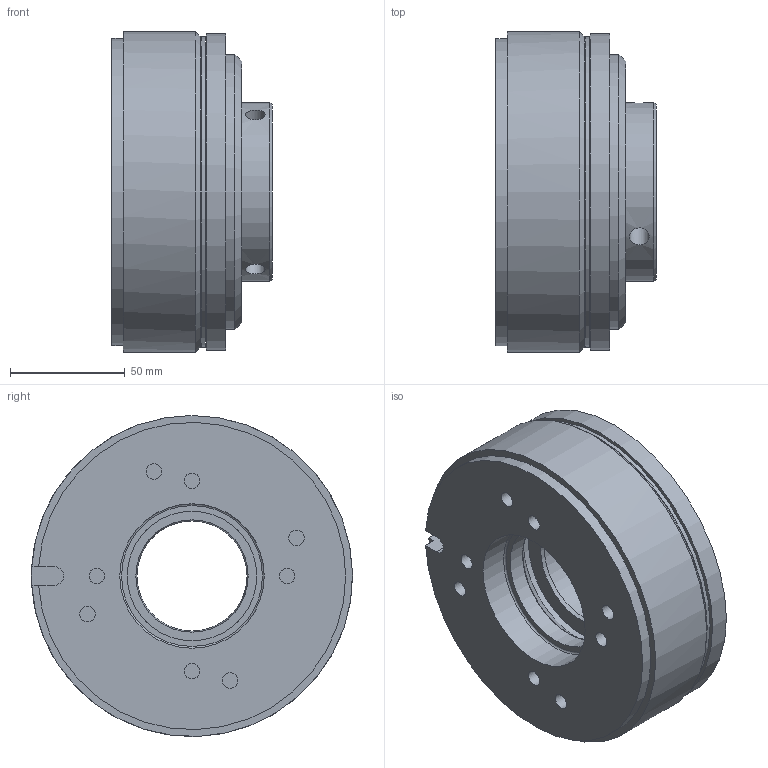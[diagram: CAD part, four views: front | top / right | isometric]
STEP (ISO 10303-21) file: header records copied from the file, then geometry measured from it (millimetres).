
FILE_DESCRIPTION (( 'STEP AP203' ), '1' );
FILE_NAME ('86_61114K00-0002_Idx_E.STEP', '2025-02-14T09:35:30', ( '' ), ( '' ), 'SwSTEP 2.0', 'SolidWorks 2022', '' );
FILE_SCHEMA (( 'CONFIG_CONTROL_DESIGN' ));
Length unit declared in the file: millimetre
Products named in the file (1): 86_61114K00-0002_Idx_E
Bounding box: 69.9 x 140 x 140 mm (x, y, z)
Volume: 710563.8 mm3; surface area: 97068.9 mm2
Topology: 2 solids, 2 shells, 56 faces, 103 edges, 65 vertices
Faces by surface type: cylinder 24, plane 22, cone 7, torus 3
Full cylindrical faces by diameter (mm): 6.8 x8, 8.5 x3, 48 x1, 56.5 x1, 63 x1, 66 x1, 70 x1, 78 x1, 108 x1, 120 x1, 135.5 x1, 138 x1, 140 x1
Entity records: 1695 total; most frequent: CARTESIAN_POINT 581, DIRECTION 230, ORIENTED_EDGE 140, EDGE_LOOP 112, AXIS2_PLACEMENT_3D 109, FACE_OUTER_BOUND 81, EDGE_CURVE 70, VERTEX_POINT 64
